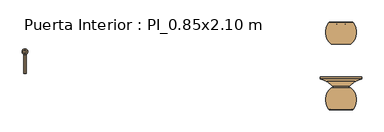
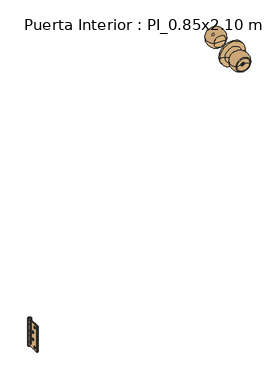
"""IFC4 building model written with IfcOpenShell, lengths in millimetres: door geometry, Puerta Interior : PI_0.85x2.10 m."""

from ifc_helpers import new_model, si_unit, point, frame, origin, place, context, project, spatial, polyline, circle_curve, ellipse_curve, trimmed, source, transform, mapped, element, save
from ifc_brep_helpers import plane_surface, cylinder_surface, revolved_surface, advanced_brep


def puerta_interior_pi_0_85x2_10_m_f147ff4f(model_context):
    return source(origin(), model_context, "Body", "AdvancedBrep", [
        advanced_brep(
        [(-389.0, 7.5, 200.0349265), (-389.0, 7.5, 100.0349265), (-389.0, 51.5, 100.0349265), (-389.0, 51.5, 115.5349265), (-389.0, 51.0, 115.5349265), (-389.0, 51.0, 141.0349265), (-389.0, 51.5, 141.0349265), (-389.0, 51.5, 159.0349265), (-389.0, 51.0, 159.0349265), (-389.0, 51.0, 184.5349265), (-389.0, 51.5, 184.5349265), (-389.0, 51.5, 200.0349265), (-389.0, 17.5, 111.0349265), (-389.0, 25.5, 111.0349265), (-389.0, 28.5, 136.0349265), (-389.0, 36.5, 136.0349265), (-389.0, 17.5, 189.0349265), (-389.0, 25.5, 189.0349265), (-389.0, 28.5, 164.0349265), (-389.0, 36.5, 164.0349265), (-391.0, 7.5, 100.0349265), (-391.0, 7.5, 200.0349265), (-391.0, 53.027864, 200.0349265), (-391.0, 53.027864, 184.5349265), (-391.0, 51.0, 184.5349265), (-391.0, 51.0, 159.0349265), (-391.0, 53.027864, 159.0349265), (-391.0, 53.027864, 141.0349265), (-391.0, 51.0, 141.0349265), (-391.0, 51.0, 115.5349265), (-391.0, 53.027864, 115.5349265), (-391.0, 53.027864, 100.0349265), (-391.0, 25.5, 111.0349265), (-391.0, 17.5, 111.0349265), (-391.0, 36.5, 136.0349265), (-391.0, 28.5, 136.0349265), (-391.0, 25.5, 189.0349265), (-391.0, 17.5, 189.0349265), (-391.0, 36.5, 164.0349265), (-391.0, 28.5, 164.0349265), (-392.0, 53.027864, 100.0349265), (-392.0, 51.0192593, 100.0349265), (-392.0, 51.0192593, 200.0349265), (-392.0, 53.027864, 200.0349265), (-392.0, 53.027864, 184.5349265), (-392.0, 51.0192593, 184.5349265), (-392.0, 51.0192593, 159.0349265), (-392.0, 53.027864, 159.0349265), (-392.0, 53.027864, 141.0349265), (-392.0, 51.0192593, 141.0349265), (-392.0, 51.0192593, 115.5349265), (-392.0, 53.027864, 115.5349265)],
        [
            (0, 1),
            (1, 2),
            (2, 3),
            (3, 4),
            (4, 5),
            (5, 6),
            (6, 7),
            (7, 8),
            (8, 9),
            (9, 10),
            (10, 11),
            (11, 0),
            (12, 13, circle_curve(frame((-389.0, 21.5, 111.0349265), z_axis=(-1.0, 0.0, 0.0), x_axis=(0.0, -1.0, 0.0)), 4.0)),
            (13, 12, circle_curve(frame((-389.0, 21.5, 111.0349265), z_axis=(-1.0, 0.0, 0.0), x_axis=(0.0, -1.0, 0.0)), 4.0)),
            (14, 15, circle_curve(frame((-389.0, 32.5, 136.0349265), z_axis=(-1.0, 0.0, 0.0), x_axis=(0.0, -1.0, 0.0)), 4.0)),
            (15, 14, circle_curve(frame((-389.0, 32.5, 136.0349265), z_axis=(-1.0, 0.0, 0.0), x_axis=(0.0, -1.0, 0.0)), 4.0)),
            (16, 17, circle_curve(frame((-389.0, 21.5, 189.0349265), z_axis=(-1.0, 0.0, 0.0), x_axis=(0.0, -1.0, 0.0)), 4.0)),
            (17, 16, circle_curve(frame((-389.0, 21.5, 189.0349265), z_axis=(-1.0, 0.0, 0.0), x_axis=(0.0, -1.0, 0.0)), 4.0)),
            (18, 19, circle_curve(frame((-389.0, 32.5, 164.0349265), z_axis=(-1.0, 0.0, 0.0), x_axis=(0.0, -1.0, 0.0)), 4.0)),
            (19, 18, circle_curve(frame((-389.0, 32.5, 164.0349265), z_axis=(-1.0, 0.0, 0.0), x_axis=(0.0, -1.0, 0.0)), 4.0)),
            (20, 21),
            (21, 22),
            (22, 23),
            (23, 24),
            (24, 25),
            (25, 26),
            (26, 27),
            (27, 28),
            (28, 29),
            (29, 30),
            (30, 31),
            (31, 20),
            (32, 33, circle_curve(frame((-391.0, 21.5, 111.0349265), z_axis=(1.0, 0.0, 0.0), x_axis=(0.0, -1.0, 0.0)), 4.0)),
            (33, 32, circle_curve(frame((-391.0, 21.5, 111.0349265), z_axis=(1.0, 0.0, 0.0), x_axis=(0.0, -1.0, 0.0)), 4.0)),
            (34, 35, circle_curve(frame((-391.0, 32.5, 136.0349265), z_axis=(1.0, 0.0, 0.0), x_axis=(0.0, -1.0, 0.0)), 4.0)),
            (35, 34, circle_curve(frame((-391.0, 32.5, 136.0349265), z_axis=(1.0, 0.0, 0.0), x_axis=(0.0, -1.0, 0.0)), 4.0)),
            (36, 37, circle_curve(frame((-391.0, 21.5, 189.0349265), z_axis=(1.0, 0.0, 0.0), x_axis=(0.0, -1.0, 0.0)), 4.0)),
            (37, 36, circle_curve(frame((-391.0, 21.5, 189.0349265), z_axis=(1.0, 0.0, 0.0), x_axis=(0.0, -1.0, 0.0)), 4.0)),
            (38, 39, circle_curve(frame((-391.0, 32.5, 164.0349265), z_axis=(1.0, 0.0, 0.0), x_axis=(0.0, -1.0, 0.0)), 4.0)),
            (39, 38, circle_curve(frame((-391.0, 32.5, 164.0349265), z_axis=(1.0, 0.0, 0.0), x_axis=(0.0, -1.0, 0.0)), 4.0)),
            (1, 20),
            (31, 40, circle_curve(frame((-391.5, 57.5, 100.0349265), z_axis=(0.0, 0.0, 1.0), x_axis=(0.0, 1.0, 0.0)), 4.5)),
            (40, 41),
            (41, 2, circle_curve(frame((-391.5, 57.5, 100.0349265), z_axis=(0.0, 0.0, -1.0), x_axis=(0.0, 1.0, 0.0)), 6.5)),
            (0, 21),
            (11, 42, circle_curve(frame((-391.5, 57.5, 200.0349265), z_axis=(0.0, 0.0, 1.0), x_axis=(0.0, 1.0, 0.0)), 6.5)),
            (42, 43),
            (43, 22, circle_curve(frame((-391.5, 57.5, 200.0349265), z_axis=(0.0, 0.0, -1.0), x_axis=(0.0, 1.0, 0.0)), 4.5)),
            (24, 9),
            (8, 25),
            (28, 5),
            (4, 29),
            (23, 44, circle_curve(frame((-391.5, 57.5, 184.5349265), z_axis=(0.0, 0.0, 1.0), x_axis=(0.0, 1.0, 0.0)), 4.5)),
            (44, 45),
            (45, 10, circle_curve(frame((-391.5, 57.5, 184.5349265), z_axis=(0.0, 0.0, -1.0), x_axis=(0.0, 1.0, 0.0)), 6.5)),
            (45, 42),
            (44, 43),
            (7, 46, circle_curve(frame((-391.5, 57.5, 159.0349265), z_axis=(0.0, 0.0, 1.0), x_axis=(0.0, 1.0, 0.0)), 6.5)),
            (46, 47),
            (47, 26, circle_curve(frame((-391.5, 57.5, 159.0349265), z_axis=(0.0, 0.0, -1.0), x_axis=(0.0, 1.0, 0.0)), 4.5)),
            (27, 48, circle_curve(frame((-391.5, 57.5, 141.0349265), z_axis=(0.0, 0.0, 1.0), x_axis=(0.0, 1.0, 0.0)), 4.5)),
            (48, 49),
            (49, 6, circle_curve(frame((-391.5, 57.5, 141.0349265), z_axis=(0.0, 0.0, -1.0), x_axis=(0.0, 1.0, 0.0)), 6.5)),
            (49, 46),
            (48, 47),
            (3, 50, circle_curve(frame((-391.5, 57.5, 115.5349265), z_axis=(0.0, 0.0, 1.0), x_axis=(0.0, 1.0, 0.0)), 6.5)),
            (50, 51),
            (51, 30, circle_curve(frame((-391.5, 57.5, 115.5349265), z_axis=(0.0, 0.0, -1.0), x_axis=(0.0, 1.0, 0.0)), 4.5)),
            (41, 50),
            (40, 51),
            (32, 13),
            (12, 33),
            (34, 15),
            (14, 35),
            (36, 17),
            (16, 37),
            (38, 19),
            (18, 39),
        ],
        [
            plane_surface(frame((-389.0, 51.0, 100.0349265), z_axis=(1.0, 0.0, 0.0), x_axis=(0.0, 0.0, 1.0))),
            plane_surface(frame((-391.0, 51.0, 100.0349265), z_axis=(-1.0, 0.0, 0.0), x_axis=(0.0, 0.0, -1.0))),
            plane_surface(frame((-389.0, 7.5, 100.0349265), z_axis=(0.0, 0.0, -1.0), x_axis=(-1.0, 0.0, 0.0))),
            plane_surface(frame((-389.0, 7.5, 200.0349265), z_axis=(0.0, -1.0, 0.0), x_axis=(-1.0, 0.0, 0.0))),
            plane_surface(frame((-389.0, 51.0, 200.0349265), z_axis=(0.0, 0.0, 1.0), x_axis=(-1.0, 0.0, 0.0))),
            plane_surface(frame((-389.0, 51.0, 100.0349265), z_axis=(0.0, 1.0, 0.0), x_axis=(-1.0, 0.0, 0.0))),
            plane_surface(frame((-391.0, 51.0, 184.5349265), z_axis=(0.0, 0.0, -1.0), x_axis=(0.0, 1.0, 0.0))),
            cylinder_surface(frame((-391.5, 57.5, 184.5349265), z_axis=(0.0, 0.0, 1.0), x_axis=(0.0, 1.0, 0.0)), 6.5),
            plane_surface(frame((-392.0, 51.0192593, 200.0349265), z_axis=(1.0, 0.0, 0.0), x_axis=(0.0, 0.0, -1.0))),
            revolved_surface(polyline([(-391.5, 62.0, 184.5349265), (-391.5, 62.0, 200.0349265)]), (-391.5, 57.5, 184.5349265), (0.0, 0.0, -1.0)),
            plane_surface(frame((-391.0, 51.0, 159.0349265), z_axis=(0.0, 0.0, 1.0), x_axis=(0.0, -1.0, 0.0))),
            plane_surface(frame((-391.0, 51.0, 141.0349265), z_axis=(0.0, 0.0, -1.0), x_axis=(0.0, 1.0, 0.0))),
            cylinder_surface(frame((-391.5, 57.5, 141.0349265), z_axis=(0.0, 0.0, 1.0), x_axis=(0.0, 1.0, 0.0)), 6.5),
            plane_surface(frame((-392.0, 51.0192593, 159.0349265), z_axis=(1.0, 0.0, 0.0), x_axis=(0.0, 0.0, -1.0))),
            revolved_surface(polyline([(-391.5, 62.0, 141.0349265), (-391.5, 62.0, 159.0349265)]), (-391.5, 57.5, 141.0349265), (0.0, 0.0, -1.0)),
            plane_surface(frame((-391.0, 51.0, 115.5349265), z_axis=(0.0, 0.0, 1.0), x_axis=(0.0, -1.0, 0.0))),
            cylinder_surface(frame((-391.5, 57.5, 100.0349265), z_axis=(0.0, 0.0, 1.0), x_axis=(0.0, 1.0, 0.0)), 6.5),
            plane_surface(frame((-392.0, 51.0192593, 115.5349265), z_axis=(1.0, 0.0, 0.0), x_axis=(0.0, 0.0, -1.0))),
            revolved_surface(polyline([(-391.5, 62.0, 100.0349265), (-391.5, 62.0, 115.5349265)]), (-391.5, 57.5, 100.0349265), (0.0, 0.0, -1.0)),
            revolved_surface(polyline([(-389.0, 17.5, 111.0349265), (-391.0, 17.5, 111.0349265)]), (-394.0, 21.5, 111.0349265), (1.0, 0.0, 0.0)),
            revolved_surface(polyline([(-389.0, 28.5, 136.0349265), (-391.0, 28.5, 136.0349265)]), (-392.0, 32.5, 136.0349265), (1.0, 0.0, 0.0)),
            revolved_surface(polyline([(-389.0, 17.5, 189.0349265), (-391.0, 17.5, 189.0349265)]), (-392.0, 21.5, 189.0349265), (1.0, 0.0, 0.0)),
            revolved_surface(polyline([(-389.0, 28.5, 164.0349265), (-391.0, 28.5, 164.0349265)]), (-392.0, 32.5, 164.0349265), (1.0, 0.0, 0.0)),
        ],
        [
            (0, [[1, 2, 3, 4, 5, 6, 7, 8, 9, 10, 11, 12], [13, 14], [15, 16], [17, 18], [19, 20]]),
            (1, [[21, 22, 23, 24, 25, 26, 27, 28, 29, 30, 31, 32], [33, 34], [35, 36], [37, 38], [39, 40]]),
            (2, [[41, -32, 42, 43, 44, -2]]),
            (3, [[-1, 45, -21, -41]]),
            (4, [[-45, -12, 46, 47, 48, -22]]),
            (5, [[49, -9, 50, -25]]),
            (5, [[51, -5, 52, -29]]),
            (6, [[53, 54, 55, -10, -49, -24]]),
            (7, [[-46, -11, -55, 56]]),
            (8, [[-47, -56, -54, 57]]),
            (9, [[-48, -57, -53, -23]]),
            (10, [[58, 59, 60, -26, -50, -8]]),
            (11, [[61, 62, 63, -6, -51, -28]]),
            (12, [[-58, -7, -63, 64]]),
            (13, [[-59, -64, -62, 65]]),
            (14, [[-60, -65, -61, -27]]),
            (15, [[66, 67, 68, -30, -52, -4]]),
            (16, [[-66, -3, -44, 69]]),
            (17, [[-67, -69, -43, 70]]),
            (18, [[-68, -70, -42, -31]]),
            (19, [[71, -13, 72, -33]]),
            (19, [[-71, -34, -72, -14]]),
            (20, [[73, -15, 74, -35]]),
            (20, [[-73, -36, -74, -16]]),
            (21, [[75, -17, 76, -37]]),
            (21, [[-75, -38, -76, -18]]),
            (22, [[77, -19, 78, -39]]),
            (22, [[-77, -40, -78, -20]]),
        ],
    ),
        advanced_brep(
        [(-391.5, 53.0, 204.0349265), (-391.5, 61.9442719, 204.0349265), (-391.5, 61.9442719, 200.5349265), (-391.5, 53.0, 200.5349265), (-391.5, 57.472136, 204.0349265), (-391.5, 53.0, 96.0349265), (-391.5, 61.9442719, 96.0349265), (-391.5, 57.472136, 96.0349265), (-391.5, 53.0, 99.5349265), (-391.5, 61.9442719, 99.5349265)],
        [
            (0, 1, circle_curve(frame((-391.5, 57.472136, 204.0349265), z_axis=(0.0, 0.0, -1.0), x_axis=(0.0, 1.0, 0.0)), 4.472136)),
            (1, 2, circle_curve(frame((-391.5, 61.9442719, 202.2849265), z_axis=(-1.0, 0.0, 0.0), x_axis=(0.0, -1.0, 0.0)), 1.75)),
            (2, 3, circle_curve(frame((-391.5, 57.472136, 200.5349265), z_axis=(0.0, 0.0, 1.0), x_axis=(0.0, 1.0, 0.0)), 4.472136)),
            (3, 0, circle_curve(frame((-391.5, 53.0, 202.2849265), z_axis=(-1.0, 0.0, 0.0), x_axis=(0.0, 1.0, 0.0)), 1.75)),
            (1, 0, circle_curve(frame((-391.5, 57.472136, 204.0349265), z_axis=(0.0, 0.0, -1.0), x_axis=(0.0, 1.0, 0.0)), 4.472136)),
            (3, 2, circle_curve(frame((-391.5, 57.472136, 200.5349265), z_axis=(0.0, 0.0, 1.0), x_axis=(0.0, 1.0, 0.0)), 4.472136)),
            (4, 1),
            (0, 4),
            (5, 6, circle_curve(frame((-391.5, 57.472136, 96.0349265), z_axis=(0.0, 0.0, -1.0), x_axis=(0.0, 1.0, 0.0)), 4.472136)),
            (6, 7),
            (7, 5),
            (6, 5, circle_curve(frame((-391.5, 57.472136, 96.0349265), z_axis=(0.0, 0.0, -1.0), x_axis=(0.0, 1.0, 0.0)), 4.472136)),
            (8, 9, circle_curve(frame((-391.5, 57.472136, 99.5349265), z_axis=(0.0, 0.0, -1.0), x_axis=(0.0, 1.0, 0.0)), 4.472136)),
            (9, 6, circle_curve(frame((-391.5, 61.9442719, 97.7849265), z_axis=(-1.0, 0.0, 0.0), x_axis=(0.0, -1.0, 0.0)), 1.75)),
            (5, 8, circle_curve(frame((-391.5, 53.0, 97.7849265), z_axis=(-1.0, 0.0, 0.0), x_axis=(0.0, 1.0, 0.0)), 1.75)),
            (9, 8, circle_curve(frame((-391.5, 57.472136, 99.5349265), z_axis=(0.0, 0.0, -1.0), x_axis=(0.0, 1.0, 0.0)), 4.472136)),
            (2, 9),
            (8, 3),
        ],
        [
            revolved_surface(trimmed(ellipse_curve(frame((-391.5, 61.9442719, 202.2849265), z_axis=(1.0, 0.0, 0.0), x_axis=(0.0, -1.0, 0.0)), 1.75, 1.75), [point((-391.5, 61.9442719, 200.5349265))], [point((-391.5, 61.9442719, 204.0349265))], True, "CARTESIAN"), (-391.5, 57.472136, 204.0349265), (0.0, 0.0, 1.0)),
            plane_surface(frame((-391.5, 57.472136, 204.0349265), z_axis=(0.0, 0.0, 1.0), x_axis=(0.0, 1.0, 0.0))),
            plane_surface(frame((-391.5, 57.472136, 96.0349265), z_axis=(0.0, 0.0, -1.0), x_axis=(0.0, 1.0, 0.0))),
            revolved_surface(trimmed(ellipse_curve(frame((-391.5, 61.9442719, 97.7849265), z_axis=(1.0, 0.0, 0.0), x_axis=(0.0, -1.0, 0.0)), 1.75, 1.75), [point((-391.5, 61.9442719, 96.0349265))], [point((-391.5, 61.9442719, 99.5349265))], True, "CARTESIAN"), (-391.5, 57.472136, 204.0349265), (0.0, 0.0, 1.0)),
            cylinder_surface(frame((-391.5, 57.472136, 204.0349265), z_axis=(0.0, 0.0, 1.0), x_axis=(0.0, 1.0, 0.0)), 4.472136),
        ],
        [
            (0, [[1, 2, 3, 4]]),
            (0, [[5, -4, 6, -2]]),
            (1, [[7, -1, 8]]),
            (1, [[-8, -5, -7]]),
            (2, [[9, 10, 11]]),
            (2, [[12, -11, -10]]),
            (3, [[13, 14, -9, 15]]),
            (3, [[16, -15, -12, -14]]),
            (4, [[-3, 17, -13, 18]]),
            (4, [[-6, -18, -16, -17]]),
        ],
    ),
        advanced_brep(
        [(-392.0, 51.0, 200.0349265), (-392.0, 7.5, 200.0349265), (-392.0, 7.5, 100.0349265), (-392.0, 51.0, 100.0349265), (-392.0, 51.0, 116.5349265), (-392.0, 53.027864, 116.5349265), (-392.0, 53.027864, 140.0349265), (-392.0, 51.0, 140.0349265), (-392.0, 51.0, 160.0349265), (-392.0, 53.027864, 160.0349265), (-392.0, 53.027864, 183.5349265), (-392.0, 51.0, 183.5349265), (-392.0, 17.5, 111.0349265), (-392.0, 25.5, 111.0349265), (-392.0, 28.5, 136.0349265), (-392.0, 36.5, 136.0349265), (-392.0, 17.5, 189.0349265), (-392.0, 25.5, 189.0349265), (-392.0, 28.5, 164.0349265), (-392.0, 36.5, 164.0349265), (-394.0, 51.0, 100.0349265), (-394.0, 7.5, 100.0349265), (-394.0, 7.5, 200.0349265), (-394.0, 51.0, 200.0349265), (-394.0, 51.0, 183.5349265), (-394.0, 51.5, 183.5349265), (-394.0, 51.5, 160.0349265), (-394.0, 51.0, 160.0349265), (-394.0, 51.0, 140.0349265), (-394.0, 51.5, 140.0349265), (-394.0, 51.5, 116.5349265), (-394.0, 51.0, 116.5349265), (-394.0, 25.5, 111.0349265), (-394.0, 17.5, 111.0349265), (-394.0, 36.5, 136.0349265), (-394.0, 28.5, 136.0349265), (-394.0, 25.5, 189.0349265), (-394.0, 17.5, 189.0349265), (-394.0, 36.5, 164.0349265), (-394.0, 28.5, 164.0349265), (-391.0, 53.027864, 183.5349265), (-391.0, 51.0192593, 183.5349265), (-391.0, 51.0192593, 160.0349265), (-391.0, 53.027864, 160.0349265), (-391.0, 53.027864, 140.0349265), (-391.0, 51.0192593, 140.0349265), (-391.0, 51.0192593, 116.5349265), (-391.0, 53.027864, 116.5349265)],
        [
            (0, 1),
            (1, 2),
            (2, 3),
            (3, 4),
            (4, 5),
            (5, 6),
            (6, 7),
            (7, 8),
            (8, 9),
            (9, 10),
            (10, 11),
            (11, 0),
            (12, 13, circle_curve(frame((-392.0, 21.5, 111.0349265), z_axis=(-1.0, 0.0, 0.0), x_axis=(0.0, -1.0, 0.0)), 4.0)),
            (13, 12, circle_curve(frame((-392.0, 21.5, 111.0349265), z_axis=(-1.0, 0.0, 0.0), x_axis=(0.0, -1.0, 0.0)), 4.0)),
            (14, 15, circle_curve(frame((-392.0, 32.5, 136.0349265), z_axis=(-1.0, 0.0, 0.0), x_axis=(0.0, -1.0, 0.0)), 4.0)),
            (15, 14, circle_curve(frame((-392.0, 32.5, 136.0349265), z_axis=(-1.0, 0.0, 0.0), x_axis=(0.0, -1.0, 0.0)), 4.0)),
            (16, 17, circle_curve(frame((-392.0, 21.5, 189.0349265), z_axis=(-1.0, 0.0, 0.0), x_axis=(0.0, -1.0, 0.0)), 4.0)),
            (17, 16, circle_curve(frame((-392.0, 21.5, 189.0349265), z_axis=(-1.0, 0.0, 0.0), x_axis=(0.0, -1.0, 0.0)), 4.0)),
            (18, 19, circle_curve(frame((-392.0, 32.5, 164.0349265), z_axis=(-1.0, 0.0, 0.0), x_axis=(0.0, -1.0, 0.0)), 4.0)),
            (19, 18, circle_curve(frame((-392.0, 32.5, 164.0349265), z_axis=(-1.0, 0.0, 0.0), x_axis=(0.0, -1.0, 0.0)), 4.0)),
            (20, 21),
            (21, 22),
            (22, 23),
            (23, 24),
            (24, 25),
            (25, 26),
            (26, 27),
            (27, 28),
            (28, 29),
            (29, 30),
            (30, 31),
            (31, 20),
            (32, 33, circle_curve(frame((-394.0, 21.5, 111.0349265), z_axis=(1.0, 0.0, 0.0), x_axis=(0.0, -1.0, 0.0)), 4.0)),
            (33, 32, circle_curve(frame((-394.0, 21.5, 111.0349265), z_axis=(1.0, 0.0, 0.0), x_axis=(0.0, -1.0, 0.0)), 4.0)),
            (34, 35, circle_curve(frame((-394.0, 32.5, 136.0349265), z_axis=(1.0, 0.0, 0.0), x_axis=(0.0, -1.0, 0.0)), 4.0)),
            (35, 34, circle_curve(frame((-394.0, 32.5, 136.0349265), z_axis=(1.0, 0.0, 0.0), x_axis=(0.0, -1.0, 0.0)), 4.0)),
            (36, 37, circle_curve(frame((-394.0, 21.5, 189.0349265), z_axis=(1.0, 0.0, 0.0), x_axis=(0.0, -1.0, 0.0)), 4.0)),
            (37, 36, circle_curve(frame((-394.0, 21.5, 189.0349265), z_axis=(1.0, 0.0, 0.0), x_axis=(0.0, -1.0, 0.0)), 4.0)),
            (38, 39, circle_curve(frame((-394.0, 32.5, 164.0349265), z_axis=(1.0, 0.0, 0.0), x_axis=(0.0, -1.0, 0.0)), 4.0)),
            (39, 38, circle_curve(frame((-394.0, 32.5, 164.0349265), z_axis=(1.0, 0.0, 0.0), x_axis=(0.0, -1.0, 0.0)), 4.0)),
            (2, 21),
            (20, 3),
            (1, 22),
            (0, 23),
            (11, 24),
            (31, 4),
            (27, 8),
            (7, 28),
            (10, 40, circle_curve(frame((-391.5, 57.5, 183.5349265), z_axis=(0.0, 0.0, -1.0), x_axis=(0.0, 1.0, 0.0)), 4.5)),
            (40, 41),
            (41, 25, circle_curve(frame((-391.5, 57.5, 183.5349265), z_axis=(0.0, 0.0, 1.0), x_axis=(0.0, 1.0, 0.0)), 6.5)),
            (26, 42, circle_curve(frame((-391.5, 57.5, 160.0349265), z_axis=(0.0, 0.0, -1.0), x_axis=(0.0, 1.0, 0.0)), 6.5)),
            (42, 43),
            (43, 9, circle_curve(frame((-391.5, 57.5, 160.0349265), z_axis=(0.0, 0.0, 1.0), x_axis=(0.0, 1.0, 0.0)), 4.5)),
            (41, 42),
            (40, 43),
            (6, 44, circle_curve(frame((-391.5, 57.5, 140.0349265), z_axis=(0.0, 0.0, -1.0), x_axis=(0.0, 1.0, 0.0)), 4.5)),
            (44, 45),
            (45, 29, circle_curve(frame((-391.5, 57.5, 140.0349265), z_axis=(0.0, 0.0, 1.0), x_axis=(0.0, 1.0, 0.0)), 6.5)),
            (30, 46, circle_curve(frame((-391.5, 57.5, 116.5349265), z_axis=(0.0, 0.0, -1.0), x_axis=(0.0, 1.0, 0.0)), 6.5)),
            (46, 47),
            (47, 5, circle_curve(frame((-391.5, 57.5, 116.5349265), z_axis=(0.0, 0.0, 1.0), x_axis=(0.0, 1.0, 0.0)), 4.5)),
            (45, 46),
            (44, 47),
            (32, 13),
            (12, 33),
            (34, 15),
            (14, 35),
            (36, 17),
            (16, 37),
            (38, 19),
            (18, 39),
        ],
        [
            plane_surface(frame((-392.0, 51.0, 100.0349265), z_axis=(1.0, 0.0, 0.0), x_axis=(0.0, 0.0, 1.0))),
            plane_surface(frame((-394.0, 51.0, 100.0349265), z_axis=(-1.0, 0.0, 0.0), x_axis=(0.0, 0.0, -1.0))),
            plane_surface(frame((-392.0, 7.5, 100.0349265), z_axis=(0.0, 0.0, -1.0), x_axis=(-1.0, 0.0, 0.0))),
            plane_surface(frame((-392.0, 7.5, 200.0349265), z_axis=(0.0, -1.0, 0.0), x_axis=(-1.0, 0.0, 0.0))),
            plane_surface(frame((-392.0, 51.0, 200.0349265), z_axis=(0.0, 0.0, 1.0), x_axis=(-1.0, 0.0, 0.0))),
            plane_surface(frame((-392.0, 51.0, 100.0349265), z_axis=(0.0, 1.0, 0.0), x_axis=(-1.0, 0.0, 0.0))),
            plane_surface(frame((-391.5, 62.0, 183.5349265), z_axis=(0.0, 0.0, 1.0), x_axis=(1.0, 0.0, 0.0))),
            plane_surface(frame((-391.5, 62.0, 160.0349265), z_axis=(0.0, 0.0, -1.0), x_axis=(-1.0, 0.0, 0.0))),
            cylinder_surface(frame((-391.5, 57.5, 160.0349265), z_axis=(0.0, 0.0, 1.0), x_axis=(0.0, 1.0, 0.0)), 6.5),
            plane_surface(frame((-391.0, 53.027864, 183.5349265), z_axis=(-1.0, 0.0, 0.0), x_axis=(0.0, 0.0, -1.0))),
            revolved_surface(polyline([(-391.5, 62.0, 160.0349265), (-391.5, 62.0, 183.5349265)]), (-391.5, 57.5, 160.0349265), (0.0, 0.0, -1.0)),
            plane_surface(frame((-391.5, 62.0, 140.0349265), z_axis=(0.0, 0.0, 1.0), x_axis=(1.0, 0.0, 0.0))),
            plane_surface(frame((-391.5, 62.0, 116.5349265), z_axis=(0.0, 0.0, -1.0), x_axis=(-1.0, 0.0, 0.0))),
            cylinder_surface(frame((-391.5, 57.5, 116.5349265), z_axis=(0.0, 0.0, 1.0), x_axis=(0.0, 1.0, 0.0)), 6.5),
            plane_surface(frame((-391.0, 53.027864, 140.0349265), z_axis=(-1.0, 0.0, 0.0), x_axis=(0.0, 0.0, -1.0))),
            revolved_surface(polyline([(-391.5, 62.0, 116.5349265), (-391.5, 62.0, 140.0349265)]), (-391.5, 57.5, 116.5349265), (0.0, 0.0, -1.0)),
            revolved_surface(polyline([(-392.0, 17.5, 111.0349265), (-394.0, 17.5, 111.0349265)]), (-394.0, 21.5, 111.0349265), (1.0, 0.0, 0.0)),
            revolved_surface(polyline([(-392.0, 28.5, 136.0349265), (-394.0, 28.5, 136.0349265)]), (-392.0, 32.5, 136.0349265), (1.0, 0.0, 0.0)),
            revolved_surface(polyline([(-392.0, 17.5, 189.0349265), (-394.0, 17.5, 189.0349265)]), (-392.0, 21.5, 189.0349265), (1.0, 0.0, 0.0)),
            revolved_surface(polyline([(-392.0, 28.5, 164.0349265), (-394.0, 28.5, 164.0349265)]), (-392.0, 32.5, 164.0349265), (1.0, 0.0, 0.0)),
        ],
        [
            (0, [[1, 2, 3, 4, 5, 6, 7, 8, 9, 10, 11, 12], [13, 14], [15, 16], [17, 18], [19, 20]]),
            (1, [[21, 22, 23, 24, 25, 26, 27, 28, 29, 30, 31, 32], [33, 34], [35, 36], [37, 38], [39, 40]]),
            (2, [[-3, 41, -21, 42]]),
            (3, [[-2, 43, -22, -41]]),
            (4, [[-1, 44, -23, -43]]),
            (5, [[-44, -12, 45, -24]]),
            (5, [[-42, -32, 46, -4]]),
            (5, [[47, -8, 48, -28]]),
            (6, [[49, 50, 51, -25, -45, -11]]),
            (7, [[52, 53, 54, -9, -47, -27]]),
            (8, [[-51, 55, -52, -26]]),
            (9, [[-50, 56, -53, -55]]),
            (10, [[-49, -10, -54, -56]]),
            (11, [[57, 58, 59, -29, -48, -7]]),
            (12, [[60, 61, 62, -5, -46, -31]]),
            (13, [[-59, 63, -60, -30]]),
            (14, [[-58, 64, -61, -63]]),
            (15, [[-57, -6, -62, -64]]),
            (16, [[65, -13, 66, -33]]),
            (16, [[-65, -34, -66, -14]]),
            (17, [[67, -15, 68, -35]]),
            (17, [[-67, -36, -68, -16]]),
            (18, [[69, -17, 70, -37]]),
            (18, [[-69, -38, -70, -18]]),
            (19, [[71, -19, 72, -39]]),
            (19, [[-71, -40, -72, -20]]),
        ],
    ),
        advanced_brep(
        [(348.5312643, -74.946362, 1025.0174632), (302.0312357, -74.946362, 1025.0174632), (319.08125, -70.0573491, 1025.0174632), (331.48125, -70.0573491, 1025.0174632), (319.08125, -66.5726145, 1025.0174632), (331.48125, -66.5726145, 1025.0174632), (325.28125, -66.5726145, 1025.0174632), (302.840796, -25.0, 1025.0174632), (347.721704, -25.0, 1025.0174632), (326.28125, -25.0, 1025.0174632), (326.28125, -25.0, 1029.2407976), (325.28125, -25.0, 1029.2407976), (325.28125, -25.0, 1025.0174632), (324.28125, -25.0, 1025.0174632), (324.28125, -25.0, 1023.7959278), (325.28125, -25.0, 1023.7959278), (325.28125, -25.0, 1022.5683489), (324.28125, -25.0, 1022.5683489), (324.28125, -25.0, 1020.937297), (326.28125, -25.0, 1020.937297), (297.8579738, -73.6071088, 1025.0174632), (352.7045262, -73.6071088, 1025.0174632), (326.28125, -33.4273855, 1020.937297), (324.28125, -33.4273855, 1020.937297), (324.28125, -33.4273855, 1022.5683489), (325.28125, -33.4273855, 1022.5683489), (325.28125, -33.4273855, 1023.7959278), (324.28125, -33.4273855, 1023.7959278), (324.28125, -33.4273855, 1025.0174632), (325.28125, -33.4273855, 1025.0174632), (325.28125, -33.4273855, 1029.2407976), (326.28125, -33.4273855, 1029.2407976)],
        [
            (0, 1, circle_curve(frame((325.28125, -74.946362, 1025.0174632), z_axis=(0.0, -1.0, 0.0), x_axis=(-1.0, 0.0, 0.0)), 23.2500143)),
            (1, 2),
            (2, 3, circle_curve(frame((325.28125, -70.0573491, 1025.0174632), z_axis=(0.0, 1.0, 0.0), x_axis=(-1.0, 0.0, 0.0)), 6.2)),
            (3, 0),
            (1, 0, circle_curve(frame((325.28125, -74.946362, 1025.0174632), z_axis=(0.0, -1.0, 0.0), x_axis=(-1.0, 0.0, 0.0)), 23.2500143)),
            (3, 2, circle_curve(frame((325.28125, -70.0573491, 1025.0174632), z_axis=(0.0, 1.0, 0.0), x_axis=(-1.0, 0.0, 0.0)), 6.2)),
            (2, 4),
            (4, 5, circle_curve(frame((325.28125, -66.5726145, 1025.0174632), z_axis=(0.0, 1.0, 0.0), x_axis=(-1.0, 0.0, 0.0)), 6.2)),
            (5, 3),
            (5, 4, circle_curve(frame((325.28125, -66.5726145, 1025.0174632), z_axis=(0.0, 1.0, 0.0), x_axis=(-1.0, 0.0, 0.0)), 6.2)),
            (4, 6),
            (6, 5),
            (7, 8, circle_curve(frame((325.28125, -25.0, 1025.0174632), z_axis=(0.0, 1.0, 0.0), x_axis=(-1.0, 0.0, 0.0)), 22.440454)),
            (8, 9),
            (9, 10),
            (10, 11),
            (11, 12),
            (12, 13),
            (13, 7),
            (8, 7, circle_curve(frame((325.28125, -25.0, 1025.0174632), z_axis=(0.0, 1.0, 0.0), x_axis=(-1.0, 0.0, 0.0)), 22.440454)),
            (13, 14),
            (14, 15),
            (15, 16),
            (16, 17),
            (17, 18),
            (18, 19),
            (19, 9),
            (7, 20, circle_curve(frame((325.28125, -51.859375, 1025.0174632), z_axis=(0.0, 0.0, 1.0), x_axis=(1.0, 0.0, 0.0)), 35.0)),
            (20, 21, circle_curve(frame((325.28125, -73.6071088, 1025.0174632), z_axis=(0.0, 1.0, 0.0), x_axis=(-1.0, 0.0, 0.0)), 27.4232762)),
            (21, 8, circle_curve(frame((325.28125, -51.859375, 1025.0174632), z_axis=(0.0, 0.0, 1.0), x_axis=(-1.0, 0.0, 0.0)), 35.0)),
            (21, 20, circle_curve(frame((325.28125, -73.6071088, 1025.0174632), z_axis=(0.0, 1.0, 0.0), x_axis=(-1.0, 0.0, 0.0)), 27.4232762)),
            (0, 21, circle_curve(frame((349.6173206, -71.1588336, 1025.0174632), z_axis=(0.0, 0.0, 1.0), x_axis=(-1.0, 0.0, 0.0)), 3.9401636)),
            (20, 1, circle_curve(frame((300.9451794, -71.1588336, 1025.0174632), z_axis=(0.0, 0.0, 1.0), x_axis=(1.0, 0.0, 0.0)), 3.9401636)),
            (22, 23),
            (23, 24),
            (24, 25),
            (25, 26),
            (26, 27),
            (27, 28),
            (28, 29),
            (29, 30),
            (30, 31),
            (31, 22),
            (22, 19),
            (18, 23),
            (17, 24),
            (16, 25),
            (15, 26),
            (14, 27),
            (13, 28),
            (12, 29),
            (11, 30),
            (10, 31),
        ],
        [
            revolved_surface(polyline([(319.08125, -70.0573491, 1025.0174632), (302.0312357, -74.946362, 1025.0174632)]), (325.28125, -27.0, 1025.0174632), (0.0, 1.0, 0.0)),
            revolved_surface(polyline([(319.08125, -66.5726145, 1025.0174632), (319.08125, -70.0573491, 1025.0174632)]), (325.28125, -27.0, 1025.0174632), (0.0, 1.0, 0.0)),
            plane_surface(frame((325.28125, -66.5726145, 1025.0174632), z_axis=(0.0, -1.0, 0.0), x_axis=(-1.0, 0.0, 0.0))),
            plane_surface(frame((325.28125, -25.0, 1025.0174632), z_axis=(0.0, 1.0, 0.0), x_axis=(-1.0, 0.0, 0.0))),
            revolved_surface(trimmed(ellipse_curve(frame((325.28125, -51.859375, 1025.0174632), z_axis=(0.0, 0.0, -1.0), x_axis=(1.0, 0.0, 0.0)), 35.0, 35.0), [point((297.8579738, -73.6071088, 1025.0174632))], [point((302.840796, -25.0, 1025.0174632))], True, "CARTESIAN"), (325.28125, -27.0, 1025.0174632), (0.0, 1.0, 0.0)),
            revolved_surface(trimmed(ellipse_curve(frame((300.9451794, -71.1588336, 1025.0174632), z_axis=(0.0, 0.0, -1.0), x_axis=(1.0, 0.0, 0.0)), 3.9401636, 3.9401636), [point((302.0312357, -74.946362, 1025.0174632))], [point((297.8579738, -73.6071088, 1025.0174632))], True, "CARTESIAN"), (325.28125, -27.0, 1025.0174632), (0.0, 1.0, 0.0)),
            plane_surface(frame((324.28125, -33.4273855, 1020.937297), z_axis=(0.0, 1.0, 0.0), x_axis=(1.0, 0.0, 0.0))),
            plane_surface(frame((326.28125, -18.8970167, 1020.937297), z_axis=(0.0, 0.0, 1.0), x_axis=(0.0, -1.0, 0.0))),
            plane_surface(frame((324.28125, -18.8970167, 1020.937297), z_axis=(1.0, 0.0, 0.0), x_axis=(0.0, -1.0, 0.0))),
            plane_surface(frame((324.28125, -18.8970167, 1022.5683489), z_axis=(0.0, 0.0, -1.0), x_axis=(0.0, -1.0, 0.0))),
            plane_surface(frame((325.28125, -18.8970167, 1022.5683489), z_axis=(1.0, 0.0, 0.0), x_axis=(0.0, -1.0, 0.0))),
            plane_surface(frame((325.28125, -18.8970167, 1023.7959278), z_axis=(0.0, 0.0, 1.0), x_axis=(0.0, -1.0, 0.0))),
            plane_surface(frame((324.28125, -18.8970167, 1023.7959278), z_axis=(1.0, 0.0, 0.0), x_axis=(0.0, -1.0, 0.0))),
            plane_surface(frame((324.28125, -18.8970167, 1025.0174632), z_axis=(0.0, 0.0, -1.0), x_axis=(0.0, -1.0, 0.0))),
            plane_surface(frame((325.28125, -18.8970167, 1025.0174632), z_axis=(1.0, 0.0, 0.0), x_axis=(0.0, -1.0, 0.0))),
            plane_surface(frame((325.28125, -18.8970167, 1029.2407976), z_axis=(0.0, 0.0, -1.0), x_axis=(0.0, -1.0, 0.0))),
            plane_surface(frame((326.28125, -18.8970167, 1029.2407976), z_axis=(-1.0, 0.0, 0.0), x_axis=(0.0, -1.0, 0.0))),
        ],
        [
            (0, [[1, 2, 3, 4]]),
            (0, [[-2, 5, -4, 6]]),
            (1, [[-3, 7, 8, 9]]),
            (1, [[-6, -9, 10, -7]]),
            (2, [[-8, 11, 12]]),
            (2, [[-10, -12, -11]]),
            (3, [[13, 14, 15, 16, 17, 18, 19]]),
            (3, [[20, -19, 21, 22, 23, 24, 25, 26, 27, -14]]),
            (4, [[-13, 28, 29, 30]]),
            (4, [[-20, -30, 31, -28]]),
            (5, [[-1, 32, -29, 33]]),
            (5, [[-5, -33, -31, -32]]),
            (6, [[34, 35, 36, 37, 38, 39, 40, 41, 42, 43]]),
            (7, [[-34, 44, -26, 45]]),
            (8, [[-35, -45, -25, 46]]),
            (9, [[-36, -46, -24, 47]]),
            (10, [[-37, -47, -23, 48]]),
            (11, [[-38, -48, -22, 49]]),
            (12, [[-39, -49, -21, 50]]),
            (13, [[-40, -50, -18, 51]]),
            (14, [[-41, -51, -17, 52]]),
            (15, [[-42, -52, -16, 53]]),
            (16, [[-43, -53, -15, -27, -44]]),
        ],
    ),
        advanced_brep(
        [(307.78125, -5.0, 1025.0174632), (342.78125, -5.0, 1025.0174632), (307.78125, -25.0, 1025.0174632), (342.78125, -25.0, 1025.0174632), (326.28125, -25.0, 1020.937297), (324.28125, -25.0, 1020.937297), (324.28125, -25.0, 1022.5683489), (325.28125, -25.0, 1022.5683489), (325.28125, -25.0, 1023.7959278), (324.28125, -25.0, 1023.7959278), (324.28125, -25.0, 1025.0174632), (325.28125, -25.0, 1025.0174632), (325.28125, -25.0, 1029.2407976), (326.28125, -25.0, 1029.2407976), (326.28125, -18.8970167, 1020.937297), (326.28125, -18.8970167, 1029.2407976), (325.28125, -18.8970167, 1029.2407976), (325.28125, -18.8970167, 1025.0174632), (324.28125, -18.8970167, 1025.0174632), (324.28125, -18.8970167, 1023.7959278), (325.28125, -18.8970167, 1023.7959278), (325.28125, -18.8970167, 1022.5683489), (324.28125, -18.8970167, 1022.5683489), (324.28125, -18.8970167, 1020.937297)],
        [
            (0, 1, circle_curve(frame((325.28125, -5.0, 1025.0174632), z_axis=(0.0, 1.0, 0.0), x_axis=(1.0, 0.0, 0.0)), 17.5)),
            (1, 0, circle_curve(frame((325.28125, -5.0, 1025.0174632), z_axis=(0.0, 1.0, 0.0), x_axis=(1.0, 0.0, 0.0)), 17.5)),
            (2, 3, circle_curve(frame((325.28125, -25.0, 1025.0174632), z_axis=(0.0, -1.0, 0.0), x_axis=(1.0, 0.0, 0.0)), 17.5)),
            (3, 2, circle_curve(frame((325.28125, -25.0, 1025.0174632), z_axis=(0.0, -1.0, 0.0), x_axis=(1.0, 0.0, 0.0)), 17.5)),
            (4, 5),
            (5, 6),
            (6, 7),
            (7, 8),
            (8, 9),
            (9, 10),
            (10, 11),
            (11, 12),
            (12, 13),
            (13, 4),
            (0, 2),
            (3, 1),
            (14, 15),
            (15, 16),
            (16, 17),
            (17, 18),
            (18, 19),
            (19, 20),
            (20, 21),
            (21, 22),
            (22, 23),
            (23, 14),
            (23, 5),
            (4, 14),
            (22, 6),
            (21, 7),
            (20, 8),
            (19, 9),
            (18, 10),
            (17, 11),
            (16, 12),
            (15, 13),
        ],
        [
            plane_surface(frame((342.78125, -5.0, 1025.0174632), z_axis=(0.0, 1.0, 0.0), x_axis=(0.0, 0.0, -1.0))),
            plane_surface(frame((342.78125, -25.0, 1025.0174632), z_axis=(0.0, -1.0, 0.0), x_axis=(0.0, 0.0, 1.0))),
            cylinder_surface(frame((325.28125, -25.0, 1025.0174632), z_axis=(0.0, 1.0, 0.0), x_axis=(1.0, 0.0, 0.0)), 17.5),
            plane_surface(frame((324.28125, -18.8970167, 1020.937297), z_axis=(0.0, -1.0, 0.0), x_axis=(-1.0, 0.0, 0.0))),
            plane_surface(frame((326.28125, -18.8970167, 1020.937297), z_axis=(0.0, 0.0, 1.0), x_axis=(0.0, -1.0, 0.0))),
            plane_surface(frame((324.28125, -18.8970167, 1020.937297), z_axis=(1.0, 0.0, 0.0), x_axis=(0.0, -1.0, 0.0))),
            plane_surface(frame((324.28125, -18.8970167, 1022.5683489), z_axis=(0.0, 0.0, -1.0), x_axis=(0.0, -1.0, 0.0))),
            plane_surface(frame((325.28125, -18.8970167, 1022.5683489), z_axis=(1.0, 0.0, 0.0), x_axis=(0.0, -1.0, 0.0))),
            plane_surface(frame((325.28125, -18.8970167, 1023.7959278), z_axis=(0.0, 0.0, 1.0), x_axis=(0.0, -1.0, 0.0))),
            plane_surface(frame((324.28125, -18.8970167, 1023.7959278), z_axis=(1.0, 0.0, 0.0), x_axis=(0.0, -1.0, 0.0))),
            plane_surface(frame((324.28125, -18.8970167, 1025.0174632), z_axis=(0.0, 0.0, -1.0), x_axis=(0.0, -1.0, 0.0))),
            plane_surface(frame((325.28125, -18.8970167, 1025.0174632), z_axis=(1.0, 0.0, 0.0), x_axis=(0.0, -1.0, 0.0))),
            plane_surface(frame((325.28125, -18.8970167, 1029.2407976), z_axis=(0.0, 0.0, -1.0), x_axis=(0.0, -1.0, 0.0))),
            plane_surface(frame((326.28125, -18.8970167, 1029.2407976), z_axis=(-1.0, 0.0, 0.0), x_axis=(0.0, -1.0, 0.0))),
        ],
        [
            (0, [[1, 2]]),
            (1, [[3, 4], [5, 6, 7, 8, 9, 10, 11, 12, 13, 14]]),
            (2, [[-1, 15, -4, 16]]),
            (2, [[-2, -16, -3, -15]]),
            (3, [[17, 18, 19, 20, 21, 22, 23, 24, 25, 26]]),
            (4, [[-26, 27, -5, 28]]),
            (5, [[-25, 29, -6, -27]]),
            (6, [[-24, 30, -7, -29]]),
            (7, [[-23, 31, -8, -30]]),
            (8, [[-22, 32, -9, -31]]),
            (9, [[-21, 33, -10, -32]]),
            (10, [[-20, 34, -11, -33]]),
            (11, [[-19, 35, -12, -34]]),
            (12, [[-18, 36, -13, -35]]),
            (13, [[-17, -28, -14, -36]]),
        ],
    ),
        advanced_brep(
        [(331.203125, 120.0573491, 1025.0174632), (319.359375, 120.0573491, 1025.0174632), (319.359375, 116.5726145, 1025.0174632), (331.203125, 116.5726145, 1025.0174632), (330.203125, 120.0573491, 1025.0174632), (320.359375, 120.0573491, 1025.0174632), (326.28125, 120.0573491, 1025.0174632), (326.28125, 120.0573491, 1029.2407976), (325.28125, 120.0573491, 1029.2407976), (325.28125, 120.0573491, 1025.0174632), (324.28125, 120.0573491, 1025.0174632), (324.28125, 120.0573491, 1023.7959278), (325.28125, 120.0573491, 1023.7959278), (325.28125, 120.0573491, 1022.5683489), (324.28125, 120.0573491, 1022.5683489), (324.28125, 120.0573491, 1020.937297), (326.28125, 120.0573491, 1020.937297), (324.28125, 116.5726145, 1025.0174632), (325.28125, 116.5726145, 1025.0174632), (325.28125, 116.5726145, 1029.2407976), (326.28125, 116.5726145, 1029.2407976), (326.28125, 116.5726145, 1025.0174632), (326.28125, 116.5726145, 1020.937297), (324.28125, 116.5726145, 1020.937297), (324.28125, 116.5726145, 1022.5683489), (325.28125, 116.5726145, 1022.5683489), (325.28125, 116.5726145, 1023.7959278), (324.28125, 116.5726145, 1023.7959278)],
        [
            (0, 1, circle_curve(frame((325.28125, 120.0573491, 1025.0174632), z_axis=(0.0, -1.0, 0.0), x_axis=(-1.0, 0.0, 0.0)), 5.921875)),
            (1, 2),
            (2, 3, circle_curve(frame((325.28125, 116.5726145, 1025.0174632), z_axis=(0.0, 1.0, 0.0), x_axis=(-1.0, 0.0, 0.0)), 5.921875)),
            (3, 0),
            (1, 0, circle_curve(frame((325.28125, 120.0573491, 1025.0174632), z_axis=(0.0, -1.0, 0.0), x_axis=(-1.0, 0.0, 0.0)), 5.921875)),
            (3, 2, circle_curve(frame((325.28125, 116.5726145, 1025.0174632), z_axis=(0.0, 1.0, 0.0), x_axis=(-1.0, 0.0, 0.0)), 5.921875)),
            (0, 4, circle_curve(frame((330.703125, 120.0573491, 1025.0174632), z_axis=(0.0, 0.0, 1.0), x_axis=(-1.0, 0.0, 0.0)), 0.5)),
            (4, 5, circle_curve(frame((325.28125, 120.0573491, 1025.0174632), z_axis=(0.0, -1.0, 0.0), x_axis=(-1.0, 0.0, 0.0)), 4.921875)),
            (5, 1, circle_curve(frame((319.859375, 120.0573491, 1025.0174632), z_axis=(0.0, 0.0, 1.0), x_axis=(1.0, 0.0, 0.0)), 0.5)),
            (5, 4, circle_curve(frame((325.28125, 120.0573491, 1025.0174632), z_axis=(0.0, -1.0, 0.0), x_axis=(-1.0, 0.0, 0.0)), 4.921875)),
            (4, 6),
            (6, 7),
            (7, 8),
            (8, 9),
            (9, 10),
            (10, 5),
            (10, 11),
            (11, 12),
            (12, 13),
            (13, 14),
            (14, 15),
            (15, 16),
            (16, 6),
            (2, 17),
            (17, 18),
            (18, 19),
            (19, 20),
            (20, 21),
            (21, 3),
            (21, 22),
            (22, 23),
            (23, 24),
            (24, 25),
            (25, 26),
            (26, 27),
            (27, 17),
            (22, 16),
            (15, 23),
            (14, 24),
            (13, 25),
            (12, 26),
            (11, 27),
            (10, 17),
            (9, 18),
            (8, 19),
            (7, 20),
        ],
        [
            cylinder_surface(frame((325.28125, 116.5726145, 1025.0174632), z_axis=(0.0, 1.0, 0.0), x_axis=(-1.0, 0.0, 0.0)), 5.921875),
            revolved_surface(trimmed(ellipse_curve(frame((319.859375, 120.0573491, 1025.0174632), z_axis=(0.0, 0.0, -1.0), x_axis=(1.0, 0.0, 0.0)), 0.5, 0.5), [point((319.359375, 120.0573491, 1025.0174632))], [point((320.359375, 120.0573491, 1025.0174632))], True, "CARTESIAN"), (325.28125, 116.5726145, 1025.0174632), (0.0, 1.0, 0.0)),
            plane_surface(frame((325.28125, 120.0573491, 1025.0174632), z_axis=(0.0, 1.0, 0.0), x_axis=(-1.0, 0.0, 0.0))),
            plane_surface(frame((325.28125, 116.5726145, 1025.0174632), z_axis=(0.0, -1.0, 0.0), x_axis=(-1.0, 0.0, 0.0))),
            plane_surface(frame((326.28125, 131.1029833, 1020.937297), z_axis=(0.0, 0.0, 1.0), x_axis=(0.0, -1.0, 0.0))),
            plane_surface(frame((324.28125, 131.1029833, 1020.937297), z_axis=(1.0, 0.0, 0.0), x_axis=(0.0, -1.0, 0.0))),
            plane_surface(frame((324.28125, 131.1029833, 1022.5683489), z_axis=(0.0, 0.0, -1.0), x_axis=(0.0, -1.0, 0.0))),
            plane_surface(frame((325.28125, 131.1029833, 1022.5683489), z_axis=(1.0, 0.0, 0.0), x_axis=(0.0, -1.0, 0.0))),
            plane_surface(frame((325.28125, 131.1029833, 1023.7959278), z_axis=(0.0, 0.0, 1.0), x_axis=(0.0, -1.0, 0.0))),
            plane_surface(frame((324.28125, 131.1029833, 1023.7959278), z_axis=(1.0, 0.0, 0.0), x_axis=(0.0, -1.0, 0.0))),
            plane_surface(frame((324.28125, 131.1029833, 1025.0174632), z_axis=(0.0, 0.0, -1.0), x_axis=(0.0, -1.0, 0.0))),
            plane_surface(frame((325.28125, 131.1029833, 1025.0174632), z_axis=(1.0, 0.0, 0.0), x_axis=(0.0, -1.0, 0.0))),
            plane_surface(frame((325.28125, 131.1029833, 1029.2407976), z_axis=(0.0, 0.0, -1.0), x_axis=(0.0, -1.0, 0.0))),
            plane_surface(frame((326.28125, 131.1029833, 1029.2407976), z_axis=(-1.0, 0.0, 0.0), x_axis=(0.0, -1.0, 0.0))),
        ],
        [
            (0, [[1, 2, 3, 4]]),
            (0, [[-2, 5, -4, 6]]),
            (1, [[-1, 7, 8, 9]]),
            (1, [[-5, -9, 10, -7]]),
            (2, [[-8, 11, 12, 13, 14, 15, 16]]),
            (2, [[-10, -16, 17, 18, 19, 20, 21, 22, 23, -11]]),
            (3, [[-3, 24, 25, 26, 27, 28, 29]]),
            (3, [[-6, -29, 30, 31, 32, 33, 34, 35, 36, -24]]),
            (4, [[37, -22, 38, -31]]),
            (5, [[-38, -21, 39, -32]]),
            (6, [[-39, -20, 40, -33]]),
            (7, [[-40, -19, 41, -34]]),
            (8, [[-41, -18, 42, -35]]),
            (9, [[43, -36, -42, -17]]),
            (10, [[-43, -15, 44, -25]]),
            (11, [[-44, -14, 45, -26]]),
            (12, [[-45, -13, 46, -27]]),
            (13, [[-37, -30, -28, -46, -12, -23]]),
        ],
    ),
        advanced_brep(
        [(331.48125, 120.0573491, 1025.0174632), (319.08125, 120.0573491, 1025.0174632), (302.0312357, 124.946362, 1025.0174632), (348.5312643, 124.946362, 1025.0174632), (331.48125, 116.5726145, 1025.0174632), (319.08125, 116.5726145, 1025.0174632), (326.28125, 116.5726145, 1025.0174632), (325.28125, 116.5726145, 1025.0174632), (324.28125, 116.5726145, 1025.0174632), (347.721704, 75.0, 1025.0174632), (302.840796, 75.0, 1025.0174632), (325.28125, 75.0, 1025.0174632), (352.7045262, 123.6071088, 1025.0174632), (297.8579738, 123.6071088, 1025.0174632)],
        [
            (0, 1, circle_curve(frame((325.28125, 120.0573491, 1025.0174632), z_axis=(0.0, -1.0, 0.0), x_axis=(-1.0, 0.0, 0.0)), 6.2)),
            (1, 2),
            (2, 3, circle_curve(frame((325.28125, 124.946362, 1025.0174632), z_axis=(0.0, 1.0, 0.0), x_axis=(-1.0, 0.0, 0.0)), 23.2500143)),
            (3, 0),
            (1, 0, circle_curve(frame((325.28125, 120.0573491, 1025.0174632), z_axis=(0.0, -1.0, 0.0), x_axis=(-1.0, 0.0, 0.0)), 6.2)),
            (3, 2, circle_curve(frame((325.28125, 124.946362, 1025.0174632), z_axis=(0.0, 1.0, 0.0), x_axis=(-1.0, 0.0, 0.0)), 23.2500143)),
            (0, 4),
            (4, 5, circle_curve(frame((325.28125, 116.5726145, 1025.0174632), z_axis=(0.0, -1.0, 0.0), x_axis=(-1.0, 0.0, 0.0)), 6.2)),
            (5, 1),
            (5, 4, circle_curve(frame((325.28125, 116.5726145, 1025.0174632), z_axis=(0.0, -1.0, 0.0), x_axis=(-1.0, 0.0, 0.0)), 6.2)),
            (4, 6),
            (6, 7),
            (7, 8),
            (8, 5),
            (9, 10, circle_curve(frame((325.28125, 75.0, 1025.0174632), z_axis=(0.0, -1.0, 0.0), x_axis=(-1.0, 0.0, 0.0)), 22.440454)),
            (10, 11),
            (11, 9),
            (10, 9, circle_curve(frame((325.28125, 75.0, 1025.0174632), z_axis=(0.0, -1.0, 0.0), x_axis=(-1.0, 0.0, 0.0)), 22.440454)),
            (9, 12, circle_curve(frame((325.28125, 101.859375, 1025.0174632), z_axis=(0.0, 0.0, 1.0), x_axis=(-1.0, 0.0, 0.0)), 35.0)),
            (12, 13, circle_curve(frame((325.28125, 123.6071088, 1025.0174632), z_axis=(0.0, -1.0, 0.0), x_axis=(-1.0, 0.0, 0.0)), 27.4232762)),
            (13, 10, circle_curve(frame((325.28125, 101.859375, 1025.0174632), z_axis=(0.0, 0.0, 1.0), x_axis=(1.0, 0.0, 0.0)), 35.0)),
            (13, 12, circle_curve(frame((325.28125, 123.6071088, 1025.0174632), z_axis=(0.0, -1.0, 0.0), x_axis=(-1.0, 0.0, 0.0)), 27.4232762)),
            (2, 13, circle_curve(frame((300.9451794, 121.1588336, 1025.0174632), z_axis=(0.0, 0.0, 1.0), x_axis=(1.0, 0.0, 0.0)), 3.9401636)),
            (12, 3, circle_curve(frame((349.6173206, 121.1588336, 1025.0174632), z_axis=(0.0, 0.0, 1.0), x_axis=(-1.0, 0.0, 0.0)), 3.9401636)),
        ],
        [
            revolved_surface(polyline([(302.0312357, 124.946362, 1025.0174632), (319.08125, 120.0573491, 1025.0174632)]), (325.28125, 77.0, 1025.0174632), (0.0, 1.0, 0.0)),
            revolved_surface(polyline([(319.08125, 120.0573491, 1025.0174632), (319.08125, 116.5726145, 1025.0174632)]), (325.28125, 77.0, 1025.0174632), (0.0, 1.0, 0.0)),
            plane_surface(frame((325.28125, 116.5726145, 1025.0174632), z_axis=(0.0, 1.0, 0.0), x_axis=(-1.0, 0.0, 0.0))),
            plane_surface(frame((325.28125, 75.0, 1025.0174632), z_axis=(0.0, -1.0, 0.0), x_axis=(-1.0, 0.0, 0.0))),
            revolved_surface(trimmed(ellipse_curve(frame((325.28125, 101.859375, 1025.0174632), z_axis=(0.0, 0.0, -1.0), x_axis=(1.0, 0.0, 0.0)), 35.0, 35.0), [point((302.840796, 75.0, 1025.0174632))], [point((297.8579738, 123.6071088, 1025.0174632))], True, "CARTESIAN"), (325.28125, 77.0, 1025.0174632), (0.0, 1.0, 0.0)),
            revolved_surface(trimmed(ellipse_curve(frame((300.9451794, 121.1588336, 1025.0174632), z_axis=(0.0, 0.0, -1.0), x_axis=(1.0, 0.0, 0.0)), 3.9401636, 3.9401636), [point((297.8579738, 123.6071088, 1025.0174632))], [point((302.0312357, 124.946362, 1025.0174632))], True, "CARTESIAN"), (325.28125, 77.0, 1025.0174632), (0.0, 1.0, 0.0)),
        ],
        [
            (0, [[1, 2, 3, 4]]),
            (0, [[-2, 5, -4, 6]]),
            (1, [[-1, 7, 8, 9]]),
            (1, [[-5, -9, 10, -7]]),
            (2, [[-8, 11, 12, 13, 14]]),
            (2, [[-10, -14, -13, -12, -11]]),
            (3, [[15, 16, 17]]),
            (3, [[-16, 18, -17]]),
            (4, [[-15, 19, 20, 21]]),
            (4, [[-18, -21, 22, -19]]),
            (5, [[-3, 23, -20, 24]]),
            (5, [[-6, -24, -22, -23]]),
        ],
    ),
        advanced_brep(
        [(331.203125, -66.5726145, 1025.0174632), (319.359375, -66.5726145, 1025.0174632), (319.359375, -70.0573491, 1025.0174632), (331.203125, -70.0573491, 1025.0174632), (320.359375, -70.0573491, 1025.0174632), (330.203125, -70.0573491, 1025.0174632), (325.28125, -70.0573491, 1025.0174632), (325.28125, -66.5726145, 1025.0174632)],
        [
            (0, 1, circle_curve(frame((325.28125, -66.5726145, 1025.0174632), z_axis=(0.0, -1.0, 0.0), x_axis=(-1.0, 0.0, 0.0)), 5.921875)),
            (1, 2),
            (2, 3, circle_curve(frame((325.28125, -70.0573491, 1025.0174632), z_axis=(0.0, 1.0, 0.0), x_axis=(-1.0, 0.0, 0.0)), 5.921875)),
            (3, 0),
            (1, 0, circle_curve(frame((325.28125, -66.5726145, 1025.0174632), z_axis=(0.0, -1.0, 0.0), x_axis=(-1.0, 0.0, 0.0)), 5.921875)),
            (3, 2, circle_curve(frame((325.28125, -70.0573491, 1025.0174632), z_axis=(0.0, 1.0, 0.0), x_axis=(-1.0, 0.0, 0.0)), 5.921875)),
            (2, 4, circle_curve(frame((319.859375, -70.0573491, 1025.0174632), z_axis=(0.0, 0.0, 1.0), x_axis=(1.0, 0.0, 0.0)), 0.5)),
            (4, 5, circle_curve(frame((325.28125, -70.0573491, 1025.0174632), z_axis=(0.0, 1.0, 0.0), x_axis=(-1.0, 0.0, 0.0)), 4.921875)),
            (5, 3, circle_curve(frame((330.703125, -70.0573491, 1025.0174632), z_axis=(0.0, 0.0, 1.0), x_axis=(-1.0, 0.0, 0.0)), 0.5)),
            (5, 4, circle_curve(frame((325.28125, -70.0573491, 1025.0174632), z_axis=(0.0, 1.0, 0.0), x_axis=(-1.0, 0.0, 0.0)), 4.921875)),
            (4, 6),
            (6, 5),
            (7, 1),
            (0, 7),
        ],
        [
            cylinder_surface(frame((325.28125, -66.5726145, 1025.0174632), z_axis=(0.0, 1.0, 0.0), x_axis=(-1.0, 0.0, 0.0)), 5.921875),
            revolved_surface(trimmed(ellipse_curve(frame((319.859375, -70.0573491, 1025.0174632), z_axis=(0.0, 0.0, -1.0), x_axis=(1.0, 0.0, 0.0)), 0.5, 0.5), [point((320.359375, -70.0573491, 1025.0174632))], [point((319.359375, -70.0573491, 1025.0174632))], True, "CARTESIAN"), (325.28125, -66.5726145, 1025.0174632), (0.0, 1.0, 0.0)),
            plane_surface(frame((325.28125, -70.0573491, 1025.0174632), z_axis=(0.0, -1.0, 0.0), x_axis=(-1.0, 0.0, 0.0))),
            plane_surface(frame((325.28125, -66.5726145, 1025.0174632), z_axis=(0.0, 1.0, 0.0), x_axis=(-1.0, 0.0, 0.0))),
        ],
        [
            (0, [[1, 2, 3, 4]]),
            (0, [[5, -4, 6, -2]]),
            (1, [[-3, 7, 8, 9]]),
            (1, [[-6, -9, 10, -7]]),
            (2, [[-8, 11, 12]]),
            (2, [[-10, -12, -11]]),
            (3, [[13, -1, 14]]),
            (3, [[-14, -5, -13]]),
        ],
    ),
        advanced_brep(
        [(372.78125, 0.0, 1025.0174632), (277.78125, 0.0, 1025.0174632), (277.78125, -5.0, 1025.0174632), (372.78125, -5.0, 1025.0174632), (293.78125, -10.0, 1025.0174632), (356.78125, -10.0, 1025.0174632), (305.5796188, -20.0, 1025.0174632), (344.9828812, -20.0, 1025.0174632), (307.3883213, -20.0, 1025.0174632), (343.1741787, -20.0, 1025.0174632), (307.3883213, -5.0, 1025.0174632), (343.1741787, -5.0, 1025.0174632), (325.28125, -5.0, 1025.0174632), (325.28125, 0.0, 1025.0174632)],
        [
            (0, 1, circle_curve(frame((325.28125, 0.0, 1025.0174632), z_axis=(0.0, -1.0, 0.0), x_axis=(-1.0, 0.0, 0.0)), 47.5)),
            (1, 2),
            (2, 3, circle_curve(frame((325.28125, -5.0, 1025.0174632), z_axis=(0.0, 1.0, 0.0), x_axis=(-1.0, 0.0, 0.0)), 47.5)),
            (3, 0),
            (1, 0, circle_curve(frame((325.28125, 0.0, 1025.0174632), z_axis=(0.0, -1.0, 0.0), x_axis=(-1.0, 0.0, 0.0)), 47.5)),
            (3, 2, circle_curve(frame((325.28125, -5.0, 1025.0174632), z_axis=(0.0, 1.0, 0.0), x_axis=(-1.0, 0.0, 0.0)), 47.5)),
            (2, 4),
            (4, 5, circle_curve(frame((325.28125, -10.0, 1025.0174632), z_axis=(0.0, 1.0, 0.0), x_axis=(-1.0, 0.0, 0.0)), 31.5)),
            (5, 3),
            (5, 4, circle_curve(frame((325.28125, -10.0, 1025.0174632), z_axis=(0.0, 1.0, 0.0), x_axis=(-1.0, 0.0, 0.0)), 31.5)),
            (4, 6),
            (6, 7, circle_curve(frame((325.28125, -20.0, 1025.0174632), z_axis=(0.0, 1.0, 0.0), x_axis=(-1.0, 0.0, 0.0)), 19.7016312)),
            (7, 5),
            (7, 6, circle_curve(frame((325.28125, -20.0, 1025.0174632), z_axis=(0.0, 1.0, 0.0), x_axis=(-1.0, 0.0, 0.0)), 19.7016312)),
            (6, 8),
            (8, 9, circle_curve(frame((325.28125, -20.0, 1025.0174632), z_axis=(0.0, 1.0, 0.0), x_axis=(-1.0, 0.0, 0.0)), 17.8929287)),
            (9, 7),
            (9, 8, circle_curve(frame((325.28125, -20.0, 1025.0174632), z_axis=(0.0, 1.0, 0.0), x_axis=(-1.0, 0.0, 0.0)), 17.8929287)),
            (8, 10),
            (10, 11, circle_curve(frame((325.28125, -5.0, 1025.0174632), z_axis=(0.0, 1.0, 0.0), x_axis=(-1.0, 0.0, 0.0)), 17.8929287)),
            (11, 9),
            (11, 10, circle_curve(frame((325.28125, -5.0, 1025.0174632), z_axis=(0.0, 1.0, 0.0), x_axis=(-1.0, 0.0, 0.0)), 17.8929287)),
            (10, 12),
            (12, 11),
            (13, 1),
            (0, 13),
        ],
        [
            cylinder_surface(frame((325.28125, 0.0, 1025.0174632), z_axis=(0.0, 1.0, 0.0), x_axis=(-1.0, 0.0, 0.0)), 47.5),
            revolved_surface(polyline([(293.78125, -10.0, 1025.0174632), (277.78125, -5.0, 1025.0174632)]), (325.28125, 0.0, 1025.0174632), (0.0, 1.0, 0.0)),
            revolved_surface(polyline([(305.5796188, -20.0, 1025.0174632), (293.78125, -10.0, 1025.0174632)]), (325.28125, 0.0, 1025.0174632), (0.0, 1.0, 0.0)),
            plane_surface(frame((325.28125, -20.0, 1025.0174632), z_axis=(0.0, -1.0, 0.0), x_axis=(-1.0, 0.0, 0.0))),
            revolved_surface(polyline([(307.38832130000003, -5.0, 1025.0174632), (307.38832130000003, -20.0, 1025.0174632)]), (325.28125, 0.0, 1025.0174632), (0.0, 1.0, 0.0)),
            plane_surface(frame((325.28125, -5.0, 1025.0174632), z_axis=(0.0, -1.0, 0.0), x_axis=(-1.0, 0.0, 0.0))),
            plane_surface(frame((325.28125, 0.0, 1025.0174632), z_axis=(0.0, 1.0, 0.0), x_axis=(-1.0, 0.0, 0.0))),
        ],
        [
            (0, [[1, 2, 3, 4]]),
            (0, [[5, -4, 6, -2]]),
            (1, [[-3, 7, 8, 9]]),
            (1, [[-6, -9, 10, -7]]),
            (2, [[-8, 11, 12, 13]]),
            (2, [[-10, -13, 14, -11]]),
            (3, [[-12, 15, 16, 17]]),
            (3, [[-14, -17, 18, -15]]),
            (4, [[-16, 19, 20, 21]]),
            (4, [[-18, -21, 22, -19]]),
            (5, [[-20, 23, 24]]),
            (5, [[-22, -24, -23]]),
            (6, [[25, -1, 26]]),
            (6, [[-26, -5, -25]]),
        ],
    ),
    ])


if __name__ == "__main__":
    model = new_model("IFC4")
    model_context = context("Model", 3, world=origin())
    ifc_project = project(units=[si_unit("LENGTHUNIT", "METRE", prefix="MILLI")], contexts=[model_context])
    site = spatial("IfcSite", under=ifc_project)
    building = spatial("IfcBuilding", under=site)
    placement = place(None, origin())
    puerta_interior_pi_0_85x2_10_m_shape = puerta_interior_pi_0_85x2_10_m_f147ff4f(model_context)
    element("IfcDoor", 1, ObjectType="Puerta Interior : PI_0.85x2.10 m", at=placement, inside=building, context=model_context, shape_type="MappedRepresentation", body=[
        mapped(puerta_interior_pi_0_85x2_10_m_shape, transform((0.0, 0.0, 0.0), x_axis=(1.0, 0.0, 0.0), y_axis=(0.0, 1.0, 0.0), z_axis=(0.0, 0.0, 1.0))),
    ])
    save(model, "model.ifc")
